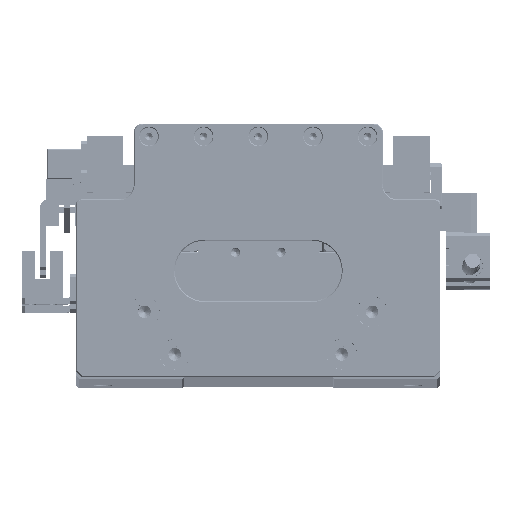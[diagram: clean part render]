
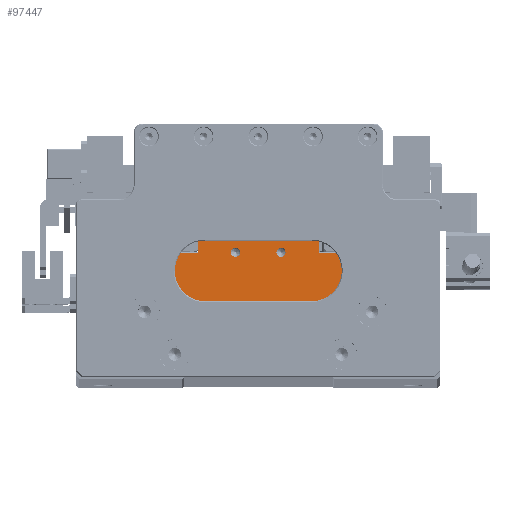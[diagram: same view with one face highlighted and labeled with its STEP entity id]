
A CAD part, top view. The second image highlights one B-rep face of the part: STEP entity #97447.
In plain terms, the highlighted planar face has unit normal (0, 0, 1).
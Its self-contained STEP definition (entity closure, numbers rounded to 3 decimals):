
#1781 = FACE_BOUND ( 'NONE', #15053, .T. ) ;
#4290 = ORIENTED_EDGE ( 'NONE', *, *, #130090, .F. ) ;
#4517 = CARTESIAN_POINT ( 'NONE',  ( -90.125, 78.98, 462.722 ) ) ;
#4696 = VECTOR ( 'NONE', #26397, 1000. ) ;
#4874 = CARTESIAN_POINT ( 'NONE',  ( -112.525, 71.48, 462.722 ) ) ;
#6169 = ORIENTED_EDGE ( 'NONE', *, *, #137483, .F. ) ;
#6842 = DIRECTION ( 'NONE',  ( 0., 0., 1. ) ) ;
#7092 = CARTESIAN_POINT ( 'NONE',  ( -91.65, 79.08, 462.722 ) ) ;
#8077 = DIRECTION ( 'NONE',  ( 1., 0., 0. ) ) ;
#8088 = LINE ( 'NONE', #90885, #4696 ) ;
#9510 = CARTESIAN_POINT ( 'NONE',  ( -75.125, 79.08, 462.722 ) ) ;
#9851 = EDGE_CURVE ( 'NONE', #139649, #69714, #109436, .T. ) ;
#12459 = VERTEX_POINT ( 'NONE', #128288 ) ;
#12888 = VECTOR ( 'NONE', #15727, 1000. ) ;
#13259 = CIRCLE ( 'NONE', #66359, 1.525 ) ;
#14748 = CARTESIAN_POINT ( 'NONE',  ( -52.725, 59.78, 462.722 ) ) ;
#15053 = EDGE_LOOP ( 'NONE', ( #25136, #69103 ) ) ;
#15484 = CARTESIAN_POINT ( 'NONE',  ( -102.625, 78.98, 462.722 ) ) ;
#15727 = DIRECTION ( 'NONE',  ( 0., 1., 0. ) ) ;
#16258 = LINE ( 'NONE', #4874, #12888 ) ;
#17086 = VERTEX_POINT ( 'NONE', #82702 ) ;
#17319 = EDGE_CURVE ( 'NONE', #123435, #46092, #16258, .T. ) ;
#18335 = AXIS2_PLACEMENT_3D ( 'NONE', #137107, #72575, #8077 ) ;
#20328 = DIRECTION ( 'NONE',  ( 1., 0., 0. ) ) ;
#23473 = VECTOR ( 'NONE', #119230, 1000. ) ;
#24225 = CARTESIAN_POINT ( 'NONE',  ( -76.65, 79.08, 462.722 ) ) ;
#25088 = LINE ( 'NONE', #130055, #28447 ) ;
#25136 = ORIENTED_EDGE ( 'NONE', *, *, #90592, .F. ) ;
#26397 = DIRECTION ( 'NONE',  ( 1., 0., 0. ) ) ;
#28255 = VECTOR ( 'NONE', #79821, 1000. ) ;
#28434 = DIRECTION ( 'NONE',  ( 0., 0., -1. ) ) ;
#28447 = VECTOR ( 'NONE', #65515, 1000. ) ;
#31687 = AXIS2_PLACEMENT_3D ( 'NONE', #39254, #28434, #60892 ) ;
#32946 = DIRECTION ( 'NONE',  ( 0., 0., 1. ) ) ;
#37739 = ORIENTED_EDGE ( 'NONE', *, *, #101470, .F. ) ;
#39254 = CARTESIAN_POINT ( 'NONE',  ( -90.125, 71.48, 462.722 ) ) ;
#39287 = VERTEX_POINT ( 'NONE', #53304 ) ;
#39681 = DIRECTION ( 'NONE',  ( 0., 1., 0. ) ) ;
#39753 = VERTEX_POINT ( 'NONE', #7092 ) ;
#41607 = ORIENTED_EDGE ( 'NONE', *, *, #129432, .F. ) ;
#42397 = AXIS2_PLACEMENT_3D ( 'NONE', #71355, #6842, #82147 ) ;
#42586 = VERTEX_POINT ( 'NONE', #15484 ) ;
#43708 = CARTESIAN_POINT ( 'NONE',  ( -52.725, 78.98, 462.722 ) ) ;
#44554 = VECTOR ( 'NONE', #39681, 1000. ) ;
#46092 = VERTEX_POINT ( 'NONE', #116647 ) ;
#49985 = LINE ( 'NONE', #70475, #132628 ) ;
#50679 = LINE ( 'NONE', #138143, #136693 ) ;
#53304 = CARTESIAN_POINT ( 'NONE',  ( -73.6, 79.08, 462.722 ) ) ;
#54176 = CARTESIAN_POINT ( 'NONE',  ( -90.125, 78.98, 462.722 ) ) ;
#59038 = FACE_OUTER_BOUND ( 'NONE', #124437, .T. ) ;
#60892 = DIRECTION ( 'NONE',  ( -1., 0., 0. ) ) ;
#62748 = DIRECTION ( 'NONE',  ( 0., -1., 0. ) ) ;
#65280 = EDGE_CURVE ( 'NONE', #39753, #17086, #126169, .T. ) ;
#65515 = DIRECTION ( 'NONE',  ( 0., -1., 0. ) ) ;
#66359 = AXIS2_PLACEMENT_3D ( 'NONE', #97412, #32946, #108278 ) ;
#67546 = ORIENTED_EDGE ( 'NONE', *, *, #9851, .F. ) ;
#68958 = CARTESIAN_POINT ( 'NONE',  ( -62.625, 82.98, 462.722 ) ) ;
#69103 = ORIENTED_EDGE ( 'NONE', *, *, #65280, .F. ) ;
#69714 = VERTEX_POINT ( 'NONE', #43708 ) ;
#70475 = CARTESIAN_POINT ( 'NONE',  ( -90.125, 82.98, 462.722 ) ) ;
#71355 = CARTESIAN_POINT ( 'NONE',  ( -75.125, 79.08, 462.722 ) ) ;
#72575 = DIRECTION ( 'NONE',  ( 0., 0., 1. ) ) ;
#73164 = AXIS2_PLACEMENT_3D ( 'NONE', #9510, #84785, #20328 ) ;
#76370 = EDGE_CURVE ( 'NONE', #133046, #139649, #25088, .T. ) ;
#79821 = DIRECTION ( 'NONE',  ( 1., 0., 0. ) ) ;
#80395 = CARTESIAN_POINT ( 'NONE',  ( -62.625, 78.98, 462.722 ) ) ;
#81280 = DIRECTION ( 'NONE',  ( 1., 0., 0. ) ) ;
#82147 = DIRECTION ( 'NONE',  ( 1., 0., 0. ) ) ;
#82702 = CARTESIAN_POINT ( 'NONE',  ( -88.6, 79.08, 462.722 ) ) ;
#84785 = DIRECTION ( 'NONE',  ( 0., 0., 1. ) ) ;
#90592 = EDGE_CURVE ( 'NONE', #17086, #39753, #13259, .T. ) ;
#90885 = CARTESIAN_POINT ( 'NONE',  ( -90.125, 59.78, 462.722 ) ) ;
#93058 = CIRCLE ( 'NONE', #42397, 1.525 ) ;
#95733 = ORIENTED_EDGE ( 'NONE', *, *, #76370, .F. ) ;
#97412 = CARTESIAN_POINT ( 'NONE',  ( -90.125, 79.08, 462.722 ) ) ;
#97447 = ADVANCED_FACE ( 'NONE', ( #59038, #112999, #1781 ), #125451, .F. ) ;
#97932 = VERTEX_POINT ( 'NONE', #14748 ) ;
#99669 = ORIENTED_EDGE ( 'NONE', *, *, #108590, .F. ) ;
#101470 = EDGE_CURVE ( 'NONE', #46092, #42586, #136097, .T. ) ;
#103341 = CARTESIAN_POINT ( 'NONE',  ( -112.525, 59.78, 462.722 ) ) ;
#104732 = CIRCLE ( 'NONE', #73164, 1.525 ) ;
#108278 = DIRECTION ( 'NONE',  ( 1., 0., 0. ) ) ;
#108590 = EDGE_CURVE ( 'NONE', #12459, #133046, #49985, .T. ) ;
#109436 = LINE ( 'NONE', #54176, #23473 ) ;
#110112 = ORIENTED_EDGE ( 'NONE', *, *, #134822, .T. ) ;
#111571 = ORIENTED_EDGE ( 'NONE', *, *, #17319, .F. ) ;
#112999 = FACE_BOUND ( 'NONE', #130253, .T. ) ;
#115063 = CARTESIAN_POINT ( 'NONE',  ( -102.625, 71.48, 462.722 ) ) ;
#115172 = EDGE_CURVE ( 'NONE', #69714, #97932, #50679, .T. ) ;
#116647 = CARTESIAN_POINT ( 'NONE',  ( -112.525, 78.98, 462.722 ) ) ;
#119230 = DIRECTION ( 'NONE',  ( 1., 0., 0. ) ) ;
#121053 = VERTEX_POINT ( 'NONE', #24225 ) ;
#123435 = VERTEX_POINT ( 'NONE', #103341 ) ;
#124437 = EDGE_LOOP ( 'NONE', ( #37739, #111571, #110112, #127044, #67546, #95733, #99669, #6169 ) ) ;
#125451 = PLANE ( 'NONE',  #31687 ) ;
#126169 = CIRCLE ( 'NONE', #18335, 1.525 ) ;
#127044 = ORIENTED_EDGE ( 'NONE', *, *, #115172, .F. ) ;
#127140 = LINE ( 'NONE', #115063, #44554 ) ;
#128288 = CARTESIAN_POINT ( 'NONE',  ( -102.625, 82.98, 462.722 ) ) ;
#129432 = EDGE_CURVE ( 'NONE', #39287, #121053, #93058, .T. ) ;
#130055 = CARTESIAN_POINT ( 'NONE',  ( -62.625, 71.48, 462.722 ) ) ;
#130090 = EDGE_CURVE ( 'NONE', #121053, #39287, #104732, .T. ) ;
#130253 = EDGE_LOOP ( 'NONE', ( #41607, #4290 ) ) ;
#132628 = VECTOR ( 'NONE', #81280, 1000. ) ;
#133046 = VERTEX_POINT ( 'NONE', #68958 ) ;
#134822 = EDGE_CURVE ( 'NONE', #123435, #97932, #8088, .T. ) ;
#136097 = LINE ( 'NONE', #4517, #28255 ) ;
#136693 = VECTOR ( 'NONE', #62748, 1000. ) ;
#137107 = CARTESIAN_POINT ( 'NONE',  ( -90.125, 79.08, 462.722 ) ) ;
#137483 = EDGE_CURVE ( 'NONE', #42586, #12459, #127140, .T. ) ;
#138143 = CARTESIAN_POINT ( 'NONE',  ( -52.725, 71.48, 462.722 ) ) ;
#139649 = VERTEX_POINT ( 'NONE', #80395 ) ;
